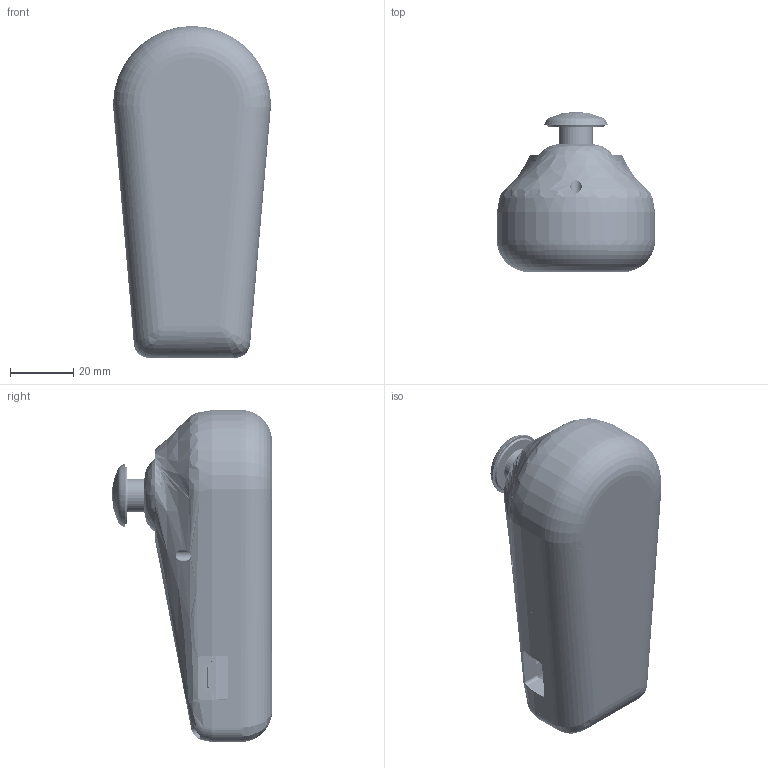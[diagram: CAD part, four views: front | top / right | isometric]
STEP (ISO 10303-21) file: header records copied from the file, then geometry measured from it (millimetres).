
FILE_DESCRIPTION(/* description */ ('','CAx-IF Rec.Pracs.---Representation and Presentation of Product Manufacturing Information (PMI)---4.0---2014-10-13'),/* implementation_level */ '2;1');
FILE_NAME(/* name */ 'Assieme_controller.stp',/* time_stamp */ '2026-06-07T10:14:21+02:00',/* author */ ('R5800u'),/* organization */ (''),/* preprocessor_version */ 'ST-DEVELOPER v20',/* originating_system */ 'Autodesk Inventor 2025',/* authorisation */ '');
FILE_SCHEMA (('AP242_MANAGED_MODEL_BASED_3D_ENGINEERING_MIM_LF { 1 0 10303 442 1 1 4 }'));
Products named in the file (52): Assieme_controller; batteria; frame; KY-023_assy; frame_top; ESP32-C3 sm with expansion board; ESP32-C3 Super Mini breakout expansion board mo; ESP32-C3-SuperMini; 2025-08-30-17-43-03-298; 2025-08-30-17-43-03-305; 2025-08-30-17-43-03-307; 2025-08-30-17-43-03-312; 2025-08-30-17-43-03-328; 2025-08-30-17-43-03-327; 2025-08-30-17-43-03-327_1; 2025-08-30-17-43-03-327_2; 2025-08-30-17-43-03-327_3; 2025-08-30-17-43-03-327_4; 2025-08-30-17-43-03-327_5; 2025-08-30-17-43-03-342; 2025-08-30-17-43-03-357; 2025-08-30-17-43-03-358; 2025-08-30-17-43-03-365; 2025-08-30-17-43-03-333; 2025-08-30-17-43-03-333_1; 2025-08-30-17-43-03-333_2; 2025-08-30-17-43-03-333_3; 2025-08-30-17-43-03-333_4; 2025-08-30-17-43-03-333_5; 2025-08-30-17-43-03-333_6; 2025-08-30-17-43-03-333_7; 2025-08-30-17-43-03-333_8; 2025-08-30-17-43-03-340; 2025-08-30-17-43-03-339; 2025-08-30-17-43-03-339_1; 2025-08-30-17-43-03-339_2; 2025-08-30-17-43-03-340_1; 2025-08-30-17-43-03-330; 2025-08-30-17-43-03-448; 2025-08-30-17-43-03-323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
Assembly tree (93 placements, depth 7):
  Assieme_controller
    batteria
    frame
    KY-023_assy
    frame_top
    ESP32-C3 sm with expansion board
      ESP32-C3 Super Mini breakout expansion board mo
      ESP32-C3-SuperMini
        2025-08-30-17-43-03-298
        2025-08-30-17-43-03-305
        2025-08-30-17-43-03-307
        2025-08-30-17-43-03-312
        2025-08-30-17-43-03-328
          2025-08-30-17-43-03-327
            2025-08-30-17-43-03-327_1
            2025-08-30-17-43-03-327_2
            2025-08-30-17-43-03-327_3
            2025-08-30-17-43-03-327_4
            2025-08-30-17-43-03-327_5
        2025-08-30-17-43-03-342
        2025-08-30-17-43-03-357
        2025-08-30-17-43-03-358
        2025-08-30-17-43-03-365
          2025-08-30-17-43-03-333
            2025-08-30-17-43-03-333_1
              2025-08-30-17-43-03-333_6
              2025-08-30-17-43-03-333_7
              2025-08-30-17-43-03-333_8
          2025-08-30-17-43-03-330  x20
          2025-08-30-17-43-03-333_2
            2025-08-30-17-43-03-333_3
              2025-08-30-17-43-03-333_6
              2025-08-30-17-43-03-333_7
              2025-08-30-17-43-03-333_8
          2025-08-30-17-43-03-333_4
            2025-08-30-17-43-03-333_5
              2025-08-30-17-43-03-333_6
              2025-08-30-17-43-03-333_7
              2025-08-30-17-43-03-333_8
          2025-08-30-17-43-03-340
            2025-08-30-17-43-03-339
            2025-08-30-17-43-03-339_1
            2025-08-30-17-43-03-339_2
            2025-08-30-17-43-03-340_1
        2025-08-30-17-43-03-448
          2025-08-30-17-43-03-323  x2
            2025-08-30-17-43-03-322
              2025-08-30-17-43-03-321
              2025-08-30-17-43-03-321_1
              2025-08-30-17-43-03-321_2
              2025-08-30-17-43-03-322_1
              2025-08-30-17-43-03-322_2
              2025-08-30-17-43-03-322_3
              2025-08-30-17-43-03-322_4
        2025-08-30-17-43-03-448_1
          2025-08-30-17-43-03-310  x2
        pin0
        saldatura  x16
Bounding box: 50 x 50.7 x 105.02 mm (x, y, z)
Volume: 71107.9 mm3; surface area: 56680.1 mm2
Topology: 345 solids, 429 shells, 13028 faces, 34345 edges, 21670 vertices
Faces by surface type: plane 6643, bspline 3072, cylinder 2460, sphere 376, torus 298, cone 179
Full cylindrical faces by diameter (mm): 0.25 x1, 0.269 x1, 0.3 x1, 0.5 x16, 0.6 x2, 0.8 x1, 0.859 x48, 1.2 x1, 1.665 x32, 1.7 x6, 1.8 x12, 1.85 x1, 1.9 x9, 2 x6, 2.1 x2, 2.6 x4, 2.8 x1, 3.5 x3, 3.6 x4, 3.8 x2, 5.2 x2, 5.8 x1, 6.2 x2, 7 x1, 8 x2, 9 x1, 10.6 x1, 12 x1, 28 x1
Entity records: 343455 total; most frequent: CARTESIAN_POINT 91723, ORIENTED_EDGE 52368, DIRECTION 48169, EDGE_CURVE 26352, LINE 17659, VECTOR 17659, VERTEX_POINT 16713, AXIS2_PLACEMENT_3D 15255
